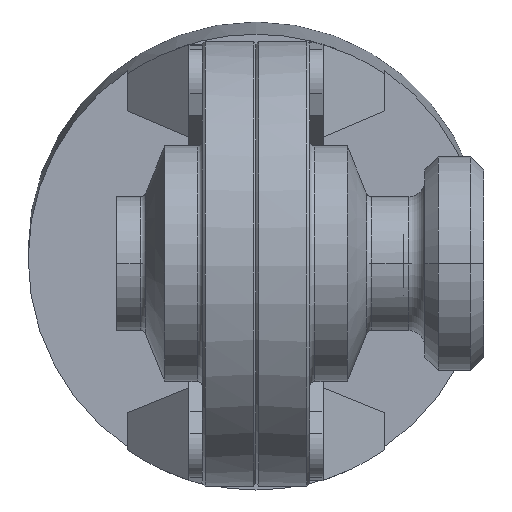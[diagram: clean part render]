
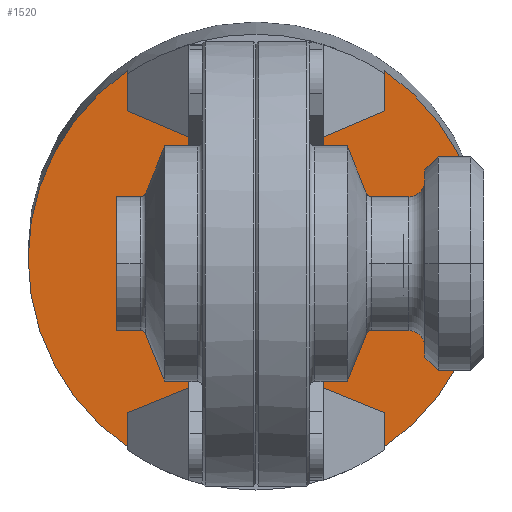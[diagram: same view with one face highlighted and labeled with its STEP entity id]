
A CAD part, front view. The second image highlights one B-rep face of the part: STEP entity #1520.
In plain terms, the highlighted planar face has unit normal (0, -1, -0.01) as drawn and (0, 0, 1) by its records, which use the part's own axes.
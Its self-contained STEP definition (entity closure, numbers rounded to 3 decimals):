
#670=CARTESIAN_POINT('',(-28.306,-212.914,
-44.596));
#680=DIRECTION('',(0.,0.,1.));
#690=DIRECTION('',(1.,0.,0.));
#700=AXIS2_PLACEMENT_3D('',#670,#680,#690);
#710=PLANE('',#700);
#720=CARTESIAN_POINT('',(-28.306,-236.914,
-44.596));
#730=DIRECTION('',(1.,0.,0.));
#740=VECTOR('',#730,1.);
#750=LINE('',#720,#740);
#760=CARTESIAN_POINT('',(-63.381,-236.914,
-44.596));
#770=VERTEX_POINT('',#760);
#780=CARTESIAN_POINT('',(-60.306,-236.914,
-44.596));
#790=VERTEX_POINT('',#780);
#800=EDGE_CURVE('',#770,#790,#750,.T.);
#810=ORIENTED_EDGE('',*,*,#800,.F.);
#820=CARTESIAN_POINT('',(-28.306,-212.914,
-44.596));
#830=DIRECTION('',(0.,0.,1.));
#840=DIRECTION('',(-1.,0.,0.));
#850=AXIS2_PLACEMENT_3D('',#820,#830,#840);
#860=CIRCLE('',#850,40.);
#870=CARTESIAN_POINT('',(-60.306,-188.914,
-44.596));
#880=VERTEX_POINT('',#870);
#890=EDGE_CURVE('',#880,#790,#860,.T.);
#900=ORIENTED_EDGE('',*,*,#890,.T.);
#910=CARTESIAN_POINT('',(-28.306,-188.914,
-44.596));
#920=DIRECTION('',(-1.,0.,0.));
#930=VECTOR('',#920,1.);
#940=LINE('',#910,#930);
#950=CARTESIAN_POINT('',(-63.381,-188.914,
-44.596));
#960=VERTEX_POINT('',#950);
#970=EDGE_CURVE('',#880,#960,#940,.T.);
#980=ORIENTED_EDGE('',*,*,#970,.F.);
#990=CARTESIAN_POINT('',(-28.306,-212.914,
-44.596));
#1000=DIRECTION('',(0.,0.,1.));
#1010=DIRECTION('',(1.,0.,0.));
#1020=AXIS2_PLACEMENT_3D('',#990,#1000,#1010);
#1030=CIRCLE('',#1020,42.5);
#1040=CARTESIAN_POINT('',(6.769,-188.914,
-44.596));
#1050=VERTEX_POINT('',#1040);
#1060=EDGE_CURVE('',#1050,#960,#1030,.T.);
#1070=ORIENTED_EDGE('',*,*,#1060,.T.);
#1080=CARTESIAN_POINT('',(-28.306,-188.914,
-44.596));
#1090=DIRECTION('',(-1.,0.,0.));
#1100=VECTOR('',#1090,1.);
#1110=LINE('',#1080,#1100);
#1120=CARTESIAN_POINT('',(3.694,-188.914,
-44.596));
#1130=VERTEX_POINT('',#1120);
#1140=EDGE_CURVE('',#1050,#1130,#1110,.T.);
#1150=ORIENTED_EDGE('',*,*,#1140,.F.);
#1160=CARTESIAN_POINT('',(-28.306,-212.914,
-44.596));
#1170=DIRECTION('',(0.,0.,1.));
#1180=DIRECTION('',(1.,0.,0.));
#1190=AXIS2_PLACEMENT_3D('',#1160,#1170,#1180);
#1200=CIRCLE('',#1190,40.);
#1210=CARTESIAN_POINT('',(3.694,-236.914,
-44.596));
#1220=VERTEX_POINT('',#1210);
#1230=EDGE_CURVE('',#1220,#1130,#1200,.T.);
#1240=ORIENTED_EDGE('',*,*,#1230,.T.);
#1250=CARTESIAN_POINT('',(-28.306,-236.914,
-44.596));
#1260=DIRECTION('',(1.,0.,0.));
#1270=VECTOR('',#1260,1.);
#1280=LINE('',#1250,#1270);
#1290=CARTESIAN_POINT('',(6.769,-236.914,
-44.596));
#1300=VERTEX_POINT('',#1290);
#1310=EDGE_CURVE('',#1220,#1300,#1280,.T.);
#1320=ORIENTED_EDGE('',*,*,#1310,.F.);
#1330=EDGE_CURVE('',#770,#1300,#1030,.T.);
#1340=ORIENTED_EDGE('',*,*,#1330,.T.);
#1350=EDGE_LOOP('',(#1340,#1320,#1240,#1150,#1070,#980,#900,#810));
#1360=FACE_OUTER_BOUND('',#1350,.T.);
#1370=CARTESIAN_POINT('',(-28.306,-212.914,
-44.596));
#1380=DIRECTION('',(0.,-0.,1.));
#1390=DIRECTION('',(0.,1.,0.));
#1400=AXIS2_PLACEMENT_3D('',#1370,#1380,#1390);
#1410=CIRCLE('',#1400,17.5);
#1420=CARTESIAN_POINT('',(-28.306,-195.414,
-44.596));
#1430=VERTEX_POINT('',#1420);
#1440=CARTESIAN_POINT('',(-28.306,-230.414,
-44.596));
#1450=VERTEX_POINT('',#1440);
#1460=EDGE_CURVE('',#1430,#1450,#1410,.T.);
#1470=ORIENTED_EDGE('',*,*,#1460,.F.);
#1480=EDGE_CURVE('',#1450,#1430,#1410,.T.);
#1490=ORIENTED_EDGE('',*,*,#1480,.F.);
#1500=EDGE_LOOP('',(#1490,#1470));
#1510=FACE_BOUND('',#1500,.T.);
#1520=ADVANCED_FACE('',(#1360,#1510),#710,.T.);
